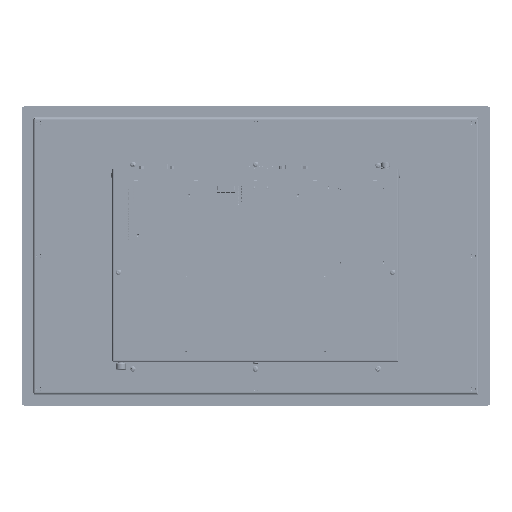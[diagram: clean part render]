
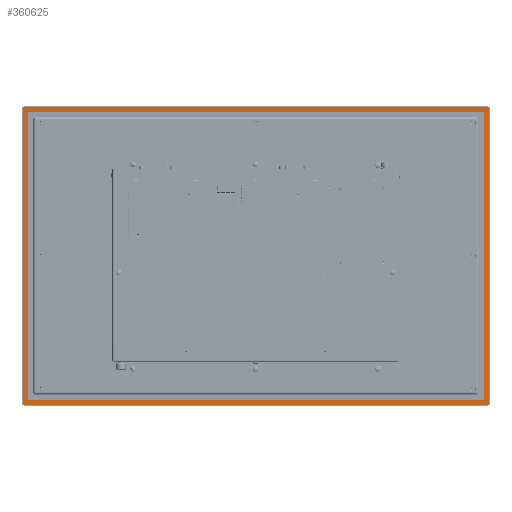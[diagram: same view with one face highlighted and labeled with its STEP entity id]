
A CAD part, front view. The second image highlights one B-rep face of the part: STEP entity #360625.
In plain terms, the highlighted planar face has unit normal (0, -1, 0).
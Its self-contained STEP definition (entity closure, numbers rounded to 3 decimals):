
#283 = LINE ( 'NONE', #83401, #281559 ) ;
#6250 = VERTEX_POINT ( 'NONE', #671071 ) ;
#6870 = VERTEX_POINT ( 'NONE', #107668 ) ;
#20766 = VERTEX_POINT ( 'NONE', #341874 ) ;
#20983 = CARTESIAN_POINT ( 'NONE',  ( -247., 0., 159. ) ) ;
#33478 = VERTEX_POINT ( 'NONE', #329687 ) ;
#46695 = DIRECTION ( 'NONE',  ( -1., 0., 0. ) ) ;
#52212 = VERTEX_POINT ( 'NONE', #166631 ) ;
#53789 = DIRECTION ( 'NONE',  ( 0., 1., 0. ) ) ;
#58146 = EDGE_CURVE ( 'NONE', #214120, #536909, #107706, .T. ) ;
#64192 = ORIENTED_EDGE ( 'NONE', *, *, #328673, .F. ) ;
#64922 = EDGE_CURVE ( 'NONE', #566542, #6250, #80339, .T. ) ;
#76434 = VECTOR ( 'NONE', #81442, 1000. ) ;
#80339 = CIRCLE ( 'NONE', #199419, 1. ) ;
#81442 = DIRECTION ( 'NONE',  ( 1., 0., 0. ) ) ;
#83401 = CARTESIAN_POINT ( 'NONE',  ( 247., 0., -159. ) ) ;
#94166 = DIRECTION ( 'NONE',  ( -1., 0., 0. ) ) ;
#94790 = CIRCLE ( 'NONE', #750057, 2. ) ;
#102007 = ORIENTED_EDGE ( 'NONE', *, *, #315244, .F. ) ;
#107096 = VECTOR ( 'NONE', #381677, 1000. ) ;
#107668 = CARTESIAN_POINT ( 'NONE',  ( -247., 0., 159. ) ) ;
#107706 = CIRCLE ( 'NONE', #467640, 2. ) ;
#109366 = ORIENTED_EDGE ( 'NONE', *, *, #721087, .F. ) ;
#117515 = FACE_BOUND ( 'NONE', #336478, .T. ) ;
#120351 = VECTOR ( 'NONE', #46695, 1000. ) ;
#122291 = CARTESIAN_POINT ( 'NONE',  ( -249., 0., -157. ) ) ;
#127285 = FACE_OUTER_BOUND ( 'NONE', #255563, .T. ) ;
#129339 = CIRCLE ( 'NONE', #655646, 1. ) ;
#137036 = EDGE_CURVE ( 'NONE', #709642, #155893, #460124, .T. ) ;
#155893 = VERTEX_POINT ( 'NONE', #342692 ) ;
#161986 = CARTESIAN_POINT ( 'NONE',  ( -244., 0., -153. ) ) ;
#166631 = CARTESIAN_POINT ( 'NONE',  ( 243., 0., 154. ) ) ;
#183096 = ORIENTED_EDGE ( 'NONE', *, *, #551640, .F. ) ;
#187709 = DIRECTION ( 'NONE',  ( -1., 0., 0. ) ) ;
#188836 = DIRECTION ( 'NONE',  ( 0., 1., 0. ) ) ;
#191491 = ORIENTED_EDGE ( 'NONE', *, *, #64922, .F. ) ;
#199419 = AXIS2_PLACEMENT_3D ( 'NONE', #576587, #329839, #390457 ) ;
#201854 = AXIS2_PLACEMENT_3D ( 'NONE', #489371, #426521, #187709 ) ;
#214120 = VERTEX_POINT ( 'NONE', #747760 ) ;
#216808 = CARTESIAN_POINT ( 'NONE',  ( -244., 0., 153. ) ) ;
#219428 = VERTEX_POINT ( 'NONE', #467089 ) ;
#222725 = CARTESIAN_POINT ( 'NONE',  ( -247., 0., 157. ) ) ;
#229429 = DIRECTION ( 'NONE',  ( 0., 0., -1. ) ) ;
#238997 = CARTESIAN_POINT ( 'NONE',  ( 0., 0., 0. ) ) ;
#242395 = ORIENTED_EDGE ( 'NONE', *, *, #386827, .F. ) ;
#245240 = CARTESIAN_POINT ( 'NONE',  ( 247., 0., -157. ) ) ;
#245411 = CIRCLE ( 'NONE', #492051, 2. ) ;
#247879 = DIRECTION ( 'NONE',  ( 0., 1., 0. ) ) ;
#255563 = EDGE_LOOP ( 'NONE', ( #479456, #290874, #717580, #774520, #183096, #64192, #460394, #321154 ) ) ;
#259163 = DIRECTION ( 'NONE',  ( -1., 0., 0. ) ) ;
#260955 = CARTESIAN_POINT ( 'NONE',  ( 244., 0., -153. ) ) ;
#279375 = AXIS2_PLACEMENT_3D ( 'NONE', #222725, #755366, #94166 ) ;
#281559 = VECTOR ( 'NONE', #259163, 1000. ) ;
#286272 = LINE ( 'NONE', #260955, #107096 ) ;
#290874 = ORIENTED_EDGE ( 'NONE', *, *, #58146, .F. ) ;
#303095 = VERTEX_POINT ( 'NONE', #597132 ) ;
#314420 = DIRECTION ( 'NONE',  ( 0., -1., 0. ) ) ;
#315193 = EDGE_CURVE ( 'NONE', #20766, #214120, #477210, .T. ) ;
#315244 = EDGE_CURVE ( 'NONE', #52212, #368179, #712124, .T. ) ;
#320927 = ORIENTED_EDGE ( 'NONE', *, *, #553419, .F. ) ;
#321154 = ORIENTED_EDGE ( 'NONE', *, *, #577744, .F. ) ;
#328673 = EDGE_CURVE ( 'NONE', #696631, #6870, #630669, .T. ) ;
#329687 = CARTESIAN_POINT ( 'NONE',  ( 247., 0., 159. ) ) ;
#329839 = DIRECTION ( 'NONE',  ( 0., -1., 0. ) ) ;
#329886 = CARTESIAN_POINT ( 'NONE',  ( 249., 0., 157. ) ) ;
#336478 = EDGE_LOOP ( 'NONE', ( #644828, #578549, #242395, #102007, #320927, #398614, #191491, #109366 ) ) ;
#341874 = CARTESIAN_POINT ( 'NONE',  ( 249., 0., 157. ) ) ;
#342692 = CARTESIAN_POINT ( 'NONE',  ( -243., 0., -154. ) ) ;
#360625 = ADVANCED_FACE ( 'NONE', ( #117515, #127285 ), #598496, .F. ) ;
#368179 = VERTEX_POINT ( 'NONE', #777143 ) ;
#368491 = DIRECTION ( 'NONE',  ( 1., 0., 0. ) ) ;
#372318 = CARTESIAN_POINT ( 'NONE',  ( -243., 0., 153. ) ) ;
#381677 = DIRECTION ( 'NONE',  ( 0., 0., 1. ) ) ;
#386827 = EDGE_CURVE ( 'NONE', #368179, #763455, #417359, .T. ) ;
#390457 = DIRECTION ( 'NONE',  ( 0., 0., -1. ) ) ;
#390502 = DIRECTION ( 'NONE',  ( 0., 0., -1. ) ) ;
#392763 = VECTOR ( 'NONE', #390502, 1000. ) ;
#398614 = ORIENTED_EDGE ( 'NONE', *, *, #632701, .F. ) ;
#402820 = DIRECTION ( 'NONE',  ( 1., 0., 0. ) ) ;
#405850 = CARTESIAN_POINT ( 'NONE',  ( 243., 0., 154. ) ) ;
#417359 = CIRCLE ( 'NONE', #571208, 1. ) ;
#426521 = DIRECTION ( 'NONE',  ( 0., -1., 0. ) ) ;
#441309 = CARTESIAN_POINT ( 'NONE',  ( 247., 0., 157. ) ) ;
#460124 = CIRCLE ( 'NONE', #201854, 1. ) ;
#460394 = ORIENTED_EDGE ( 'NONE', *, *, #624903, .F. ) ;
#467089 = CARTESIAN_POINT ( 'NONE',  ( -249., 0., -157. ) ) ;
#467640 = AXIS2_PLACEMENT_3D ( 'NONE', #245240, #247879, #368491 ) ;
#473512 = DIRECTION ( 'NONE',  ( 0., -1., 0. ) ) ;
#477210 = LINE ( 'NONE', #329886, #392763 ) ;
#479456 = ORIENTED_EDGE ( 'NONE', *, *, #677222, .F. ) ;
#481146 = LINE ( 'NONE', #216808, #490908 ) ;
#489371 = CARTESIAN_POINT ( 'NONE',  ( -243., 0., -153. ) ) ;
#490908 = VECTOR ( 'NONE', #578998, 1000. ) ;
#492051 = AXIS2_PLACEMENT_3D ( 'NONE', #777723, #53789, #229429 ) ;
#503293 = DIRECTION ( 'NONE',  ( 0., 0., 1. ) ) ;
#528648 = AXIS2_PLACEMENT_3D ( 'NONE', #238997, #188836, #608751 ) ;
#536909 = VERTEX_POINT ( 'NONE', #610834 ) ;
#538180 = LINE ( 'NONE', #591618, #745374 ) ;
#539624 = EDGE_CURVE ( 'NONE', #763455, #709642, #481146, .T. ) ;
#551640 = EDGE_CURVE ( 'NONE', #6870, #33478, #714870, .T. ) ;
#553419 = EDGE_CURVE ( 'NONE', #303095, #52212, #129339, .T. ) ;
#566542 = VERTEX_POINT ( 'NONE', #760793 ) ;
#571208 = AXIS2_PLACEMENT_3D ( 'NONE', #372318, #314420, #503293 ) ;
#576587 = CARTESIAN_POINT ( 'NONE',  ( 243., 0., -153. ) ) ;
#577744 = EDGE_CURVE ( 'NONE', #713914, #219428, #245411, .T. ) ;
#578549 = ORIENTED_EDGE ( 'NONE', *, *, #539624, .F. ) ;
#578998 = DIRECTION ( 'NONE',  ( 0., 0., -1. ) ) ;
#591618 = CARTESIAN_POINT ( 'NONE',  ( -243., 0., -154. ) ) ;
#595052 = VECTOR ( 'NONE', #612607, 1000. ) ;
#597132 = CARTESIAN_POINT ( 'NONE',  ( 244., 0., 153. ) ) ;
#598496 = PLANE ( 'NONE',  #528648 ) ;
#608751 = DIRECTION ( 'NONE',  ( 1., 0., 0. ) ) ;
#610834 = CARTESIAN_POINT ( 'NONE',  ( 247., 0., -159. ) ) ;
#612607 = DIRECTION ( 'NONE',  ( 0., 0., 1. ) ) ;
#616045 = EDGE_CURVE ( 'NONE', #33478, #20766, #94790, .T. ) ;
#619685 = DIRECTION ( 'NONE',  ( 0., 0., 1. ) ) ;
#624903 = EDGE_CURVE ( 'NONE', #219428, #696631, #773500, .T. ) ;
#627546 = DIRECTION ( 'NONE',  ( 0., 1., 0. ) ) ;
#629135 = CARTESIAN_POINT ( 'NONE',  ( -244., 0., 153. ) ) ;
#630014 = CARTESIAN_POINT ( 'NONE',  ( -249., 0., 157. ) ) ;
#630669 = CIRCLE ( 'NONE', #279375, 2. ) ;
#632701 = EDGE_CURVE ( 'NONE', #6250, #303095, #286272, .T. ) ;
#640097 = CARTESIAN_POINT ( 'NONE',  ( -247., 0., -159. ) ) ;
#644828 = ORIENTED_EDGE ( 'NONE', *, *, #137036, .F. ) ;
#649270 = DIRECTION ( 'NONE',  ( 1., 0., 0. ) ) ;
#651942 = CARTESIAN_POINT ( 'NONE',  ( 243., 0., 153. ) ) ;
#655646 = AXIS2_PLACEMENT_3D ( 'NONE', #651942, #473512, #649270 ) ;
#671071 = CARTESIAN_POINT ( 'NONE',  ( 244., 0., -153. ) ) ;
#677222 = EDGE_CURVE ( 'NONE', #536909, #713914, #283, .T. ) ;
#696631 = VERTEX_POINT ( 'NONE', #630014 ) ;
#709642 = VERTEX_POINT ( 'NONE', #161986 ) ;
#712124 = LINE ( 'NONE', #405850, #120351 ) ;
#713914 = VERTEX_POINT ( 'NONE', #640097 ) ;
#714870 = LINE ( 'NONE', #20983, #76434 ) ;
#717580 = ORIENTED_EDGE ( 'NONE', *, *, #315193, .F. ) ;
#721087 = EDGE_CURVE ( 'NONE', #155893, #566542, #538180, .T. ) ;
#745374 = VECTOR ( 'NONE', #402820, 1000. ) ;
#747760 = CARTESIAN_POINT ( 'NONE',  ( 249., 0., -157. ) ) ;
#750057 = AXIS2_PLACEMENT_3D ( 'NONE', #441309, #627546, #619685 ) ;
#755366 = DIRECTION ( 'NONE',  ( 0., 1., 0. ) ) ;
#760793 = CARTESIAN_POINT ( 'NONE',  ( 243., 0., -154. ) ) ;
#763455 = VERTEX_POINT ( 'NONE', #629135 ) ;
#773500 = LINE ( 'NONE', #122291, #595052 ) ;
#774520 = ORIENTED_EDGE ( 'NONE', *, *, #616045, .F. ) ;
#777143 = CARTESIAN_POINT ( 'NONE',  ( -243., 0., 154. ) ) ;
#777723 = CARTESIAN_POINT ( 'NONE',  ( -247., 0., -157. ) ) ;
